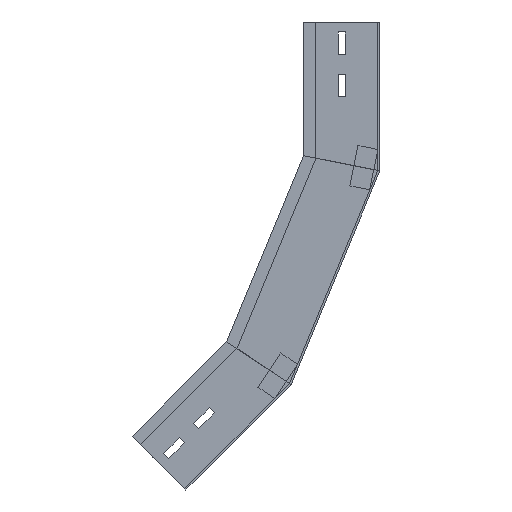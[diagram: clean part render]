
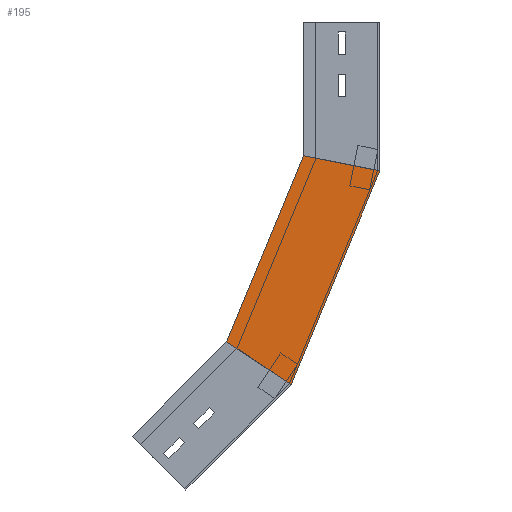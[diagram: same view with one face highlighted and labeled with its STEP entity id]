
A CAD part, left-side view. The second image highlights one B-rep face of the part: STEP entity #195.
In plain terms, the highlighted planar face has unit normal (-1, 0, 0) as drawn and (1, 0, 0) by its records, which use the part's own axes.
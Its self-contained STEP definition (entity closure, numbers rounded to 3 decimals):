
#10 = DIRECTION ( 'NONE',  ( 0., 0.383, -0.924 ) ) ;
#14 = DIRECTION ( 'NONE',  ( 0., -0.981, -0.195 ) ) ;
#69 = DIRECTION ( 'NONE',  ( 0., 0., 1. ) ) ;
#93 = DIRECTION ( 'NONE',  ( 0., 0.383, -0.924 ) ) ;
#97 = VECTOR ( 'NONE', #14, 1000. ) ;
#98 = CARTESIAN_POINT ( 'NONE',  ( 0., 28.051, -141.02 ) ) ;
#116 = CARTESIAN_POINT ( 'NONE',  ( 0., 150.91, -314.945 ) ) ;
#195 = ADVANCED_FACE ( 'NONE', ( #1090 ), #963, .F. ) ;
#255 = VERTEX_POINT ( 'NONE', #116 ) ;
#291 = EDGE_CURVE ( 'NONE', #653, #1159, #684, .T. ) ;
#303 = EDGE_CURVE ( 'NONE', #543, #653, #1371, .T. ) ;
#424 = LINE ( 'NONE', #1357, #868 ) ;
#519 = CARTESIAN_POINT ( 'NONE',  ( 0., 0., -146.6 ) ) ;
#543 = VERTEX_POINT ( 'NONE', #759 ) ;
#605 = ORIENTED_EDGE ( 'NONE', *, *, #977, .F. ) ;
#653 = VERTEX_POINT ( 'NONE', #519 ) ;
#684 = LINE ( 'NONE', #915, #1019 ) ;
#718 = EDGE_LOOP ( 'NONE', ( #1063, #1470, #823, #605 ) ) ;
#759 = CARTESIAN_POINT ( 'NONE',  ( 0., 75., -131.682 ) ) ;
#823 = ORIENTED_EDGE ( 'NONE', *, *, #291, .T. ) ;
#844 = DIRECTION ( 'NONE',  ( -1., 0., 0. ) ) ;
#868 = VECTOR ( 'NONE', #93, 1000. ) ;
#915 = CARTESIAN_POINT ( 'NONE',  ( 0., 0., -146.6 ) ) ;
#963 = PLANE ( 'NONE',  #1070 ) ;
#975 = LINE ( 'NONE', #1460, #976 ) ;
#976 = VECTOR ( 'NONE', #1479, 1000. ) ;
#977 = EDGE_CURVE ( 'NONE', #255, #1159, #975, .T. ) ;
#1019 = VECTOR ( 'NONE', #10, 1000. ) ;
#1063 = ORIENTED_EDGE ( 'NONE', *, *, #1310, .F. ) ;
#1070 = AXIS2_PLACEMENT_3D ( 'NONE', #1449, #844, #69 ) ;
#1090 = FACE_OUTER_BOUND ( 'NONE', #718, .T. ) ;
#1159 = VERTEX_POINT ( 'NONE', #1316 ) ;
#1310 = EDGE_CURVE ( 'NONE', #543, #255, #424, .T. ) ;
#1316 = CARTESIAN_POINT ( 'NONE',  ( 0., 87.328, -357.429 ) ) ;
#1357 = CARTESIAN_POINT ( 'NONE',  ( 0., 69.291, -117.899 ) ) ;
#1371 = LINE ( 'NONE', #98, #97 ) ;
#1449 = CARTESIAN_POINT ( 'NONE',  ( 0., 0., -146.6 ) ) ;
#1460 = CARTESIAN_POINT ( 'NONE',  ( 0., 124.345, -332.696 ) ) ;
#1470 = ORIENTED_EDGE ( 'NONE', *, *, #303, .T. ) ;
#1479 = DIRECTION ( 'NONE',  ( 0., -0.831, -0.556 ) ) ;
